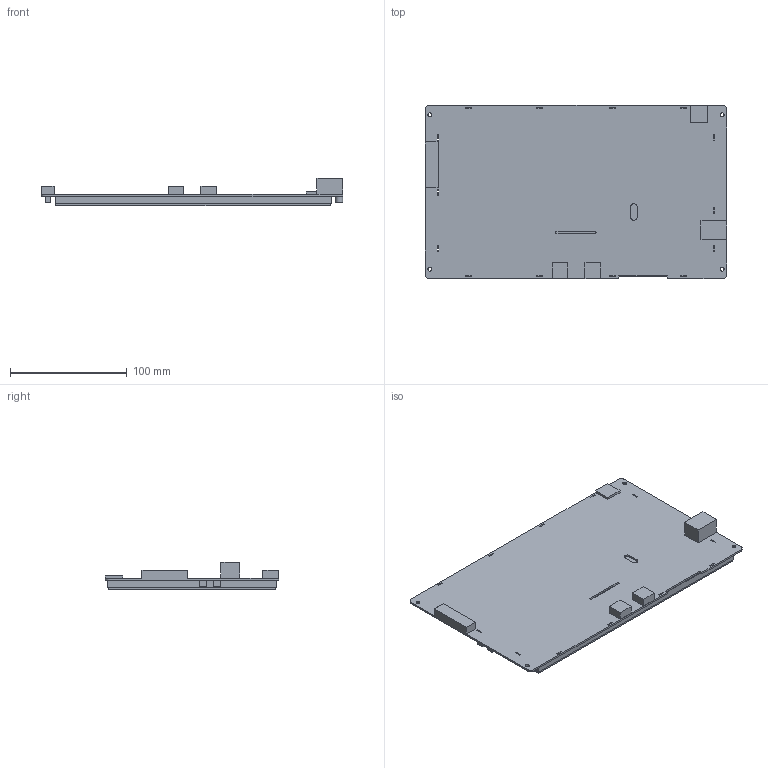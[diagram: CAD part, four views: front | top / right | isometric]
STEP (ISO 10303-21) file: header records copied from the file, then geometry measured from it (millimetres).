
FILE_DESCRIPTION((''),'2;1');
FILE_NAME('DMG10600C101_32WTC','2023-01-06T',('Administrator'),(''),'PRO/ENGINEER BY PARAMETRIC TECHNOLOGY CORPORATION, 2011310','PRO/ENGINEER BY PARAMETRIC TECHNOLOGY CORPORATION, 2011310','');
FILE_SCHEMA(('CONFIG_CONTROL_DESIGN','SHAPE_APPEARANCE_LAYERS_GROUPS'));
Products named in the file (1): DMG10600C101_32WTC
Bounding box: 257.81 x 148.08 x 23.2 mm (x, y, z)
Volume: 334006.6 mm3; surface area: 148534.7 mm2
Topology: 1 solids, 2 shells, 153 faces, 21797 edges, 38233 vertices
Faces by surface type: plane 135, cylinder 18
Entity records: 182105 total; most frequent: DIRECTION 26963, CARTESIAN_POINT 22223, PRESENTATION_STYLE_ASSIGNMENT 21811, STYLED_ITEM 21811, CURVE_STYLE 21803, TRIMMED_CURVE 21380, VECTOR 16939, LINE 16939
